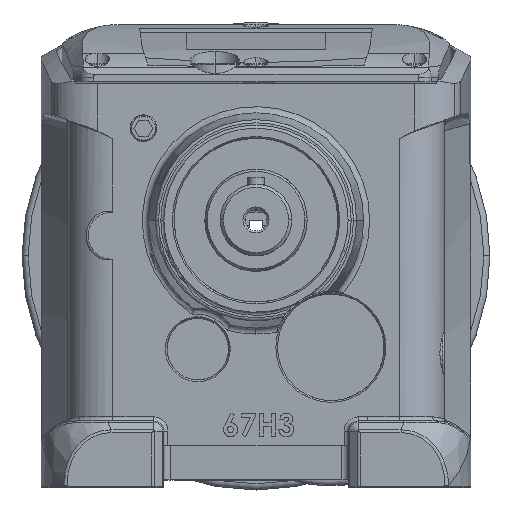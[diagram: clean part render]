
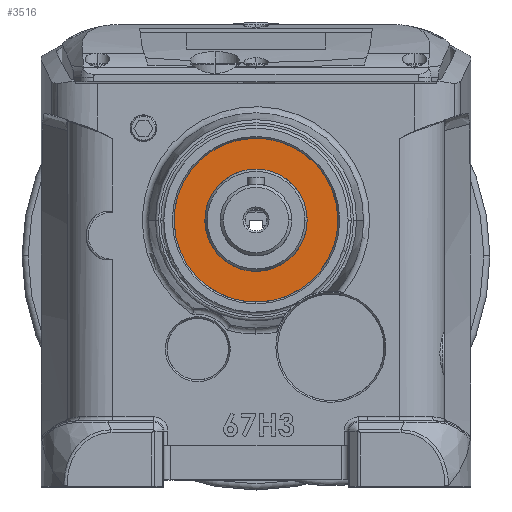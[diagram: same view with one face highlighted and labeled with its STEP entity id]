
A CAD part, top view. The second image highlights one B-rep face of the part: STEP entity #3516.
In plain terms, the highlighted planar face has unit normal (0, 0, 1).
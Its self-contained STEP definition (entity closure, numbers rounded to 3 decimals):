
#399 = CARTESIAN_POINT ( 'NONE',  ( 0., 135., 41.5 ) ) ;
#400 = DIRECTION ( 'NONE',  ( 0., 0., 1. ) ) ;
#401 = DIRECTION ( 'NONE',  ( 0.736, 0.677, 0. ) ) ;
#422 = CARTESIAN_POINT ( 'NONE',  ( 0., 135., 41.5 ) ) ;
#423 = DIRECTION ( 'NONE',  ( 0., 0., 1. ) ) ;
#424 = DIRECTION ( 'NONE',  ( 0.736, 0.677, 0. ) ) ;
#425 = CARTESIAN_POINT ( 'NONE',  ( 0., 135., 41.5 ) ) ;
#426 = DIRECTION ( 'NONE',  ( 0., 0., 1. ) ) ;
#427 = DIRECTION ( 'NONE',  ( 0.736, 0.677, 0. ) ) ;
#428 = CARTESIAN_POINT ( 'NONE',  ( 0., 135., 41.5 ) ) ;
#429 = DIRECTION ( 'NONE',  ( 0., 0., 1. ) ) ;
#430 = DIRECTION ( 'NONE',  ( 0.736, 0.677, 0. ) ) ;
#3516 = ADVANCED_FACE ( 'NONE', ( #37060, #37138 ), #29699, .F. ) ;
#24672 = VERTEX_POINT ( 'NONE', #43883 ) ;
#24673 = VERTEX_POINT ( 'NONE', #43884 ) ;
#24674 = VERTEX_POINT ( 'NONE', #43885 ) ;
#24675 = VERTEX_POINT ( 'NONE', #43886 ) ;
#25201 = EDGE_LOOP ( 'NONE', ( #50916, #50914 ) ) ;
#25205 = EDGE_LOOP ( 'NONE', ( #50922, #50920 ) ) ;
#29693 = DIRECTION ( 'NONE',  ( -0.736, -0.677, 0. ) ) ;
#29695 = DIRECTION ( 'NONE',  ( 0., 0., -1. ) ) ;
#29697 = CARTESIAN_POINT ( 'NONE',  ( -27.061, 164.457, 41.5 ) ) ;
#29699 = PLANE ( 'NONE',  #36198 ) ;
#36198 = AXIS2_PLACEMENT_3D ( 'NONE', #29697, #29695, #29693 ) ;
#37060 = FACE_BOUND ( 'NONE', #25201, .T. ) ;
#37138 = FACE_OUTER_BOUND ( 'NONE', #25205, .T. ) ;
#43883 = CARTESIAN_POINT ( 'NONE',  ( 29.457, 162.061, 41.5 ) ) ;
#43884 = CARTESIAN_POINT ( 'NONE',  ( -29.457, 107.939, 41.5 ) ) ;
#43885 = CARTESIAN_POINT ( 'NONE',  ( 18.41, 151.913, 41.5 ) ) ;
#43886 = CARTESIAN_POINT ( 'NONE',  ( -18.41, 118.087, 41.5 ) ) ;
#50914 = ORIENTED_EDGE ( 'NONE', *, *, #59286, .F. ) ;
#50916 = ORIENTED_EDGE ( 'NONE', *, *, #59285, .F. ) ;
#50920 = ORIENTED_EDGE ( 'NONE', *, *, #59272, .T. ) ;
#50922 = ORIENTED_EDGE ( 'NONE', *, *, #59288, .T. ) ;
#55753 = CIRCLE ( 'NONE', #55755, 40. ) ;
#55755 = AXIS2_PLACEMENT_3D ( 'NONE', #399, #400, #401 ) ;
#55758 = CIRCLE ( 'NONE', #55770, 25. ) ;
#55769 = CIRCLE ( 'NONE', #55773, 40. ) ;
#55770 = AXIS2_PLACEMENT_3D ( 'NONE', #422, #423, #424 ) ;
#55771 = CIRCLE ( 'NONE', #55772, 25. ) ;
#55772 = AXIS2_PLACEMENT_3D ( 'NONE', #425, #426, #427 ) ;
#55773 = AXIS2_PLACEMENT_3D ( 'NONE', #428, #429, #430 ) ;
#59272 = EDGE_CURVE ( 'NONE', #24673, #24672, #55753, .T. ) ;
#59285 = EDGE_CURVE ( 'NONE', #24674, #24675, #55758, .T. ) ;
#59286 = EDGE_CURVE ( 'NONE', #24675, #24674, #55771, .T. ) ;
#59288 = EDGE_CURVE ( 'NONE', #24672, #24673, #55769, .T. ) ;
